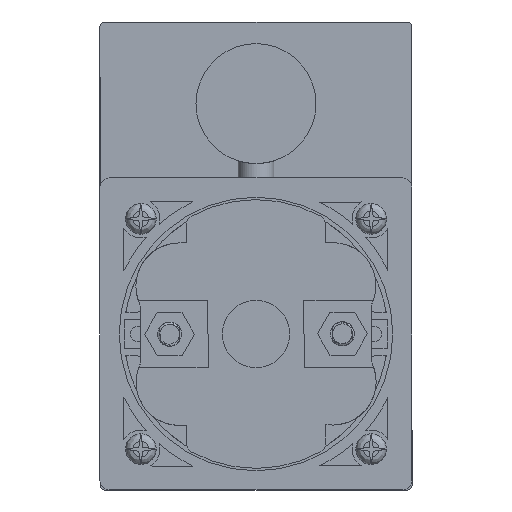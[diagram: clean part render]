
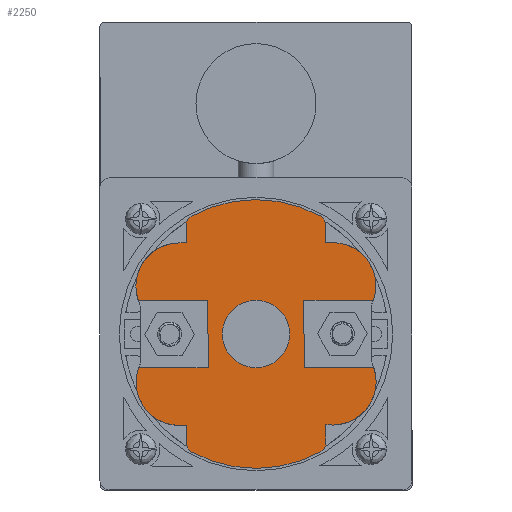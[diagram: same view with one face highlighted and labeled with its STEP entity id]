
A CAD part, front view. The second image highlights one B-rep face of the part: STEP entity #2250.
In plain terms, the highlighted planar face has unit normal (0, -1, 0).
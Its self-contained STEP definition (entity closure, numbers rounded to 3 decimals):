
#912=FACE_BOUND('',#4526,.T.);
#913=FACE_BOUND('',#4527,.T.);
#2250=ADVANCED_FACE('',(#912,#913),#2824,.F.);
#2824=PLANE('',#17300);
#4526=EDGE_LOOP('',(#9060,#9061,#9062,#9063,#9064,#9065,#9066,#9067,#9068,
#9069,#9070,#9071,#9072,#9073,#9074,#9075,#9076,#9077,#9078,#9079,#9080,
#9081,#9082,#9083,#9084));
#4527=EDGE_LOOP('',(#9085));
#5189=CIRCLE('',#17158,7.);
#5191=CIRCLE('',#17163,9.);
#5192=CIRCLE('',#17166,9.);
#5193=CIRCLE('',#17171,9.);
#5194=CIRCLE('',#17174,8.96);
#5196=CIRCLE('',#17178,9.);
#5250=CIRCLE('',#17294,2.);
#5251=CIRCLE('',#17295,28.);
#5252=CIRCLE('',#17296,2.);
#5253=CIRCLE('',#17297,2.);
#5254=CIRCLE('',#17298,28.);
#5255=CIRCLE('',#17299,2.);
#9060=ORIENTED_EDGE('',*,*,#13356,.F.);
#9061=ORIENTED_EDGE('',*,*,#13354,.T.);
#9062=ORIENTED_EDGE('',*,*,#13350,.T.);
#9063=ORIENTED_EDGE('',*,*,#13471,.T.);
#9064=ORIENTED_EDGE('',*,*,#13539,.T.);
#9065=ORIENTED_EDGE('',*,*,#13540,.T.);
#9066=ORIENTED_EDGE('',*,*,#13541,.T.);
#9067=ORIENTED_EDGE('',*,*,#13479,.T.);
#9068=ORIENTED_EDGE('',*,*,#13346,.T.);
#9069=ORIENTED_EDGE('',*,*,#13343,.T.);
#9070=ORIENTED_EDGE('',*,*,#13340,.T.);
#9071=ORIENTED_EDGE('',*,*,#13338,.F.);
#9072=ORIENTED_EDGE('',*,*,#13336,.F.);
#9073=ORIENTED_EDGE('',*,*,#13334,.F.);
#9074=ORIENTED_EDGE('',*,*,#13332,.T.);
#9075=ORIENTED_EDGE('',*,*,#13330,.T.);
#9076=ORIENTED_EDGE('',*,*,#13532,.T.);
#9077=ORIENTED_EDGE('',*,*,#13542,.T.);
#9078=ORIENTED_EDGE('',*,*,#13543,.T.);
#9079=ORIENTED_EDGE('',*,*,#13544,.T.);
#9080=ORIENTED_EDGE('',*,*,#13545,.T.);
#9081=ORIENTED_EDGE('',*,*,#13358,.T.);
#9082=ORIENTED_EDGE('',*,*,#13327,.T.);
#9083=ORIENTED_EDGE('',*,*,#13324,.F.);
#9084=ORIENTED_EDGE('',*,*,#13321,.F.);
#9085=ORIENTED_EDGE('',*,*,#13320,.F.);
#11212=VERTEX_POINT('',#74983);
#11213=VERTEX_POINT('',#74986);
#11214=VERTEX_POINT('',#74987);
#11215=VERTEX_POINT('',#74992);
#11217=VERTEX_POINT('',#74998);
#11218=VERTEX_POINT('',#75002);
#11219=VERTEX_POINT('',#75004);
#11220=VERTEX_POINT('',#75008);
#11221=VERTEX_POINT('',#75012);
#11222=VERTEX_POINT('',#75016);
#11223=VERTEX_POINT('',#75020);
#11224=VERTEX_POINT('',#75024);
#11226=VERTEX_POINT('',#75036);
#11228=VERTEX_POINT('',#75048);
#11231=VERTEX_POINT('',#75055);
#11232=VERTEX_POINT('',#75057);
#11234=VERTEX_POINT('',#75070);
#11236=VERTEX_POINT('',#75078);
#11311=VERTEX_POINT('',#75311);
#11315=VERTEX_POINT('',#75326);
#11355=VERTEX_POINT('',#75437);
#11359=VERTEX_POINT('',#75451);
#11360=VERTEX_POINT('',#75453);
#11361=VERTEX_POINT('',#75456);
#11362=VERTEX_POINT('',#75458);
#11363=VERTEX_POINT('',#75460);
#13320=EDGE_CURVE('',#11212,#11212,#5189,.T.);
#13321=EDGE_CURVE('',#11213,#11214,#14726,.T.);
#13324=EDGE_CURVE('',#11214,#11215,#14729,.T.);
#13327=EDGE_CURVE('',#11217,#11215,#5191,.T.);
#13330=EDGE_CURVE('',#11219,#11218,#14733,.T.);
#13332=EDGE_CURVE('',#11220,#11219,#5192,.T.);
#13334=EDGE_CURVE('',#11220,#11221,#14736,.T.);
#13336=EDGE_CURVE('',#11221,#11222,#14738,.T.);
#13338=EDGE_CURVE('',#11222,#11223,#14740,.T.);
#13340=EDGE_CURVE('',#11224,#11223,#5193,.T.);
#13343=EDGE_CURVE('',#11226,#11224,#14742,.T.);
#13346=EDGE_CURVE('',#11228,#11226,#5194,.T.);
#13350=EDGE_CURVE('',#11232,#11231,#14746,.T.);
#13354=EDGE_CURVE('',#11234,#11232,#5196,.T.);
#13356=EDGE_CURVE('',#11234,#11213,#14748,.T.);
#13358=EDGE_CURVE('',#11236,#11217,#14750,.T.);
#13471=EDGE_CURVE('',#11231,#11311,#14831,.T.);
#13479=EDGE_CURVE('',#11315,#11228,#14836,.T.);
#13532=EDGE_CURVE('',#11218,#11355,#14871,.T.);
#13539=EDGE_CURVE('',#11311,#11359,#5250,.T.);
#13540=EDGE_CURVE('',#11359,#11360,#5251,.T.);
#13541=EDGE_CURVE('',#11360,#11315,#5252,.T.);
#13542=EDGE_CURVE('',#11355,#11361,#5253,.T.);
#13543=EDGE_CURVE('',#11361,#11362,#5254,.T.);
#13544=EDGE_CURVE('',#11362,#11363,#5255,.T.);
#13545=EDGE_CURVE('',#11363,#11236,#14875,.T.);
#14726=LINE('',#74985,#15840);
#14729=LINE('',#74991,#15843);
#14733=LINE('',#75003,#15847);
#14736=LINE('',#75011,#15850);
#14738=LINE('',#75015,#15852);
#14740=LINE('',#75019,#15854);
#14742=LINE('',#75035,#15856);
#14746=LINE('',#75056,#15860);
#14748=LINE('',#75073,#15862);
#14750=LINE('',#75077,#15864);
#14831=LINE('',#75313,#15945);
#14836=LINE('',#75325,#15950);
#14871=LINE('',#75439,#15985);
#14875=LINE('',#75461,#15989);
#15840=VECTOR('',#20289,1.);
#15843=VECTOR('',#20294,1.);
#15847=VECTOR('',#20306,1.);
#15850=VECTOR('',#20315,1.);
#15852=VECTOR('',#20319,1.);
#15854=VECTOR('',#20323,1.);
#15856=VECTOR('',#20331,1.);
#15860=VECTOR('',#20341,1.);
#15862=VECTOR('',#20351,1.);
#15864=VECTOR('',#20355,1.);
#15945=VECTOR('',#20576,1.);
#15950=VECTOR('',#20591,1.);
#15985=VECTOR('',#20692,1.);
#15989=VECTOR('',#20718,1.);
#17158=AXIS2_PLACEMENT_3D('',#74982,#20285,#20286);
#17163=AXIS2_PLACEMENT_3D('',#74997,#20300,#20301);
#17166=AXIS2_PLACEMENT_3D('',#75007,#20310,#20311);
#17171=AXIS2_PLACEMENT_3D('',#75023,#20327,#20328);
#17174=AXIS2_PLACEMENT_3D('',#75047,#20334,#20335);
#17178=AXIS2_PLACEMENT_3D('',#75069,#20346,#20347);
#17294=AXIS2_PLACEMENT_3D('',#75450,#20706,#20707);
#17295=AXIS2_PLACEMENT_3D('',#75452,#20708,#20709);
#17296=AXIS2_PLACEMENT_3D('',#75454,#20710,#20711);
#17297=AXIS2_PLACEMENT_3D('',#75455,#20712,#20713);
#17298=AXIS2_PLACEMENT_3D('',#75457,#20714,#20715);
#17299=AXIS2_PLACEMENT_3D('',#75459,#20716,#20717);
#17300=AXIS2_PLACEMENT_3D('',#75462,#20719,#20720);
#20285=DIRECTION('',(0.,-1.,0.));
#20286=DIRECTION('',(-1.,0.,-0.003));
#20289=DIRECTION('',(-0.003,0.,1.));
#20294=DIRECTION('',(-1.,0.,-0.003));
#20300=DIRECTION('',(0.,-1.,0.));
#20301=DIRECTION('',(-1.,0.,-0.003));
#20306=DIRECTION('',(-1.,0.,-0.003));
#20310=DIRECTION('',(0.,-1.,0.));
#20311=DIRECTION('',(1.,0.,0.003));
#20315=DIRECTION('',(-1.,0.,-0.003));
#20319=DIRECTION('',(0.003,0.,-1.));
#20323=DIRECTION('',(1.,0.,0.003));
#20327=DIRECTION('',(0.,-1.,0.));
#20328=DIRECTION('',(0.,0.,-1.));
#20331=DIRECTION('',(1.,0.,0.003));
#20334=DIRECTION('',(0.,-1.,0.));
#20335=DIRECTION('',(0.,0.,-1.));
#20341=DIRECTION('',(1.,0.,0.003));
#20346=DIRECTION('',(0.,-1.,0.));
#20347=DIRECTION('',(-0.89,0.,0.456));
#20351=DIRECTION('',(1.,0.,0.003));
#20355=DIRECTION('',(-1.,0.,-0.003));
#20576=DIRECTION('',(0.003,0.,-1.));
#20591=DIRECTION('',(-0.003,0.,1.));
#20692=DIRECTION('',(-0.003,0.,1.));
#20706=DIRECTION('',(0.,-1.,0.));
#20707=DIRECTION('',(1.,0.,0.003));
#20708=DIRECTION('',(0.,-1.,0.));
#20709=DIRECTION('',(1.,0.,0.003));
#20710=DIRECTION('',(0.,-1.,0.));
#20711=DIRECTION('',(1.,0.,0.003));
#20712=DIRECTION('',(0.,-1.,0.));
#20713=DIRECTION('',(1.,0.,0.003));
#20714=DIRECTION('',(0.,-1.,0.));
#20715=DIRECTION('',(1.,0.,0.003));
#20716=DIRECTION('',(0.,-1.,0.));
#20717=DIRECTION('',(1.,0.,0.003));
#20718=DIRECTION('',(0.003,0.,-1.));
#20719=DIRECTION('',(0.,1.,0.));
#20720=DIRECTION('',(0.,0.,1.));
#74982=CARTESIAN_POINT('',(0.,-54.1,0.));
#74983=CARTESIAN_POINT('',(-7.,-54.1,-0.018));
#74985=CARTESIAN_POINT('',(-9.982,-54.1,-7.026));
#74986=CARTESIAN_POINT('',(-9.982,-54.1,-7.026));
#74987=CARTESIAN_POINT('',(-10.018,-54.1,6.974));
#74991=CARTESIAN_POINT('',(-10.018,-54.1,6.974));
#74992=CARTESIAN_POINT('',(-24.503,-54.1,6.937));
#74997=CARTESIAN_POINT('',(-16.026,-54.1,9.959));
#74998=CARTESIAN_POINT('',(-16.049,-54.1,18.959));
#75002=CARTESIAN_POINT('',(14.451,-54.1,19.037));
#75003=CARTESIAN_POINT('',(15.951,-54.1,19.041));
#75004=CARTESIAN_POINT('',(15.951,-54.1,19.041));
#75007=CARTESIAN_POINT('',(15.974,-54.1,10.041));
#75008=CARTESIAN_POINT('',(24.467,-54.1,7.063));
#75011=CARTESIAN_POINT('',(34.164,-54.1,7.088));
#75012=CARTESIAN_POINT('',(9.982,-54.1,7.026));
#75015=CARTESIAN_POINT('',(9.982,-54.1,7.026));
#75016=CARTESIAN_POINT('',(10.018,-54.1,-6.974));
#75019=CARTESIAN_POINT('',(10.018,-54.1,-6.974));
#75020=CARTESIAN_POINT('',(24.503,-54.1,-6.937));
#75023=CARTESIAN_POINT('',(16.026,-54.1,-9.959));
#75024=CARTESIAN_POINT('',(16.119,-54.1,-18.958));
#75035=CARTESIAN_POINT('',(23.752,-54.1,-18.938));
#75036=CARTESIAN_POINT('',(15.978,-54.1,-18.959));
#75047=CARTESIAN_POINT('',(16.02,-54.1,-9.999));
#75048=CARTESIAN_POINT('',(14.548,-54.1,-18.837));
#75055=CARTESIAN_POINT('',(-14.451,-54.1,-19.037));
#75056=CARTESIAN_POINT('',(23.753,-54.1,-18.934));
#75057=CARTESIAN_POINT('',(-15.951,-54.1,-19.041));
#75069=CARTESIAN_POINT('',(-15.974,-54.1,-10.041));
#75070=CARTESIAN_POINT('',(-24.468,-54.1,-7.063));
#75073=CARTESIAN_POINT('',(-34.164,-54.1,-7.088));
#75077=CARTESIAN_POINT('',(-14.549,-54.1,18.963));
#75078=CARTESIAN_POINT('',(-14.549,-54.1,18.963));
#75311=CARTESIAN_POINT('',(-14.441,-54.1,-22.835));
#75313=CARTESIAN_POINT('',(-14.451,-54.1,-19.037));
#75325=CARTESIAN_POINT('',(14.558,-54.1,-22.761));
#75326=CARTESIAN_POINT('',(14.558,-54.1,-22.761));
#75437=CARTESIAN_POINT('',(14.441,-54.1,22.835));
#75439=CARTESIAN_POINT('',(14.451,-54.1,19.037));
#75450=CARTESIAN_POINT('',(-12.441,-54.1,-22.83));
#75451=CARTESIAN_POINT('',(-13.398,-54.1,-24.586));
#75452=CARTESIAN_POINT('',(0.,-54.1,0.));
#75453=CARTESIAN_POINT('',(13.525,-54.1,-24.517));
#75454=CARTESIAN_POINT('',(12.558,-54.1,-22.766));
#75455=CARTESIAN_POINT('',(12.441,-54.1,22.83));
#75456=CARTESIAN_POINT('',(13.398,-54.1,24.586));
#75457=CARTESIAN_POINT('',(0.,-54.1,0.));
#75458=CARTESIAN_POINT('',(-13.525,-54.1,24.517));
#75459=CARTESIAN_POINT('',(-12.558,-54.1,22.766));
#75460=CARTESIAN_POINT('',(-14.558,-54.1,22.761));
#75461=CARTESIAN_POINT('',(-14.558,-54.1,22.761));
#75462=CARTESIAN_POINT('',(23.741,-54.1,-14.593));
